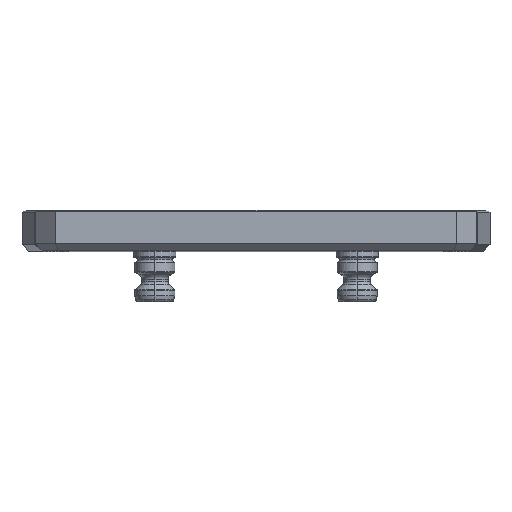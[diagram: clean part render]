
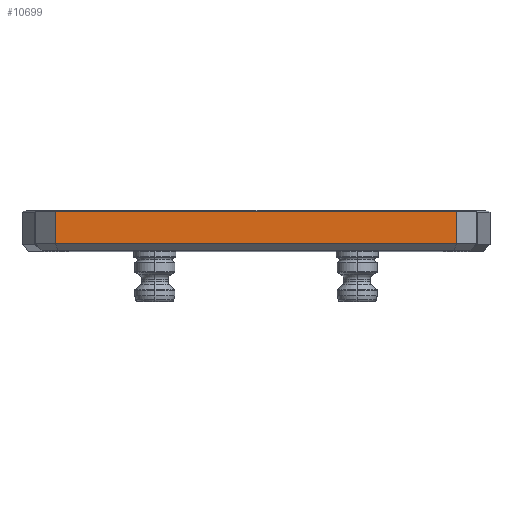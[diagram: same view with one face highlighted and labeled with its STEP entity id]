
A CAD part, top view. The second image highlights one B-rep face of the part: STEP entity #10699.
In plain terms, the highlighted planar face has unit normal (0, 0, 1).
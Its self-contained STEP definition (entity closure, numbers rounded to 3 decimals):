
#222 = ORIENTED_EDGE ( 'NONE', *, *, #4744, .T. ) ;
#234 = LINE ( 'NONE', #746, #2522 ) ;
#265 = PLANE ( 'NONE',  #9976 ) ;
#746 = CARTESIAN_POINT ( 'NONE',  ( -95.25, 18.542, 169. ) ) ;
#901 = LINE ( 'NONE', #5977, #3186 ) ;
#1336 = ORIENTED_EDGE ( 'NONE', *, *, #3201, .T. ) ;
#1771 = LINE ( 'NONE', #7569, #8369 ) ;
#1966 = DIRECTION ( 'NONE',  ( -1., 0., 0. ) ) ;
#2064 = EDGE_LOOP ( 'NONE', ( #222, #1336, #3951, #2580 ) ) ;
#2398 = DIRECTION ( 'NONE',  ( -1., 0., 0. ) ) ;
#2522 = VECTOR ( 'NONE', #2398, 1000. ) ;
#2580 = ORIENTED_EDGE ( 'NONE', *, *, #7151, .T. ) ;
#2949 = DIRECTION ( 'NONE',  ( 0., 1., 0. ) ) ;
#3075 = VERTEX_POINT ( 'NONE', #7978 ) ;
#3186 = VECTOR ( 'NONE', #11153, 1000. ) ;
#3201 = EDGE_CURVE ( 'NONE', #10597, #7466, #234, .T. ) ;
#3521 = LINE ( 'NONE', #5547, #10662 ) ;
#3538 = EDGE_CURVE ( 'NONE', #7466, #8417, #1771, .T. ) ;
#3951 = ORIENTED_EDGE ( 'NONE', *, *, #3538, .T. ) ;
#4044 = DIRECTION ( 'NONE',  ( 0., -1., 0. ) ) ;
#4348 = CARTESIAN_POINT ( 'NONE',  ( 95.25, 18.542, 169. ) ) ;
#4627 = FACE_OUTER_BOUND ( 'NONE', #2064, .T. ) ;
#4744 = EDGE_CURVE ( 'NONE', #3075, #10597, #3521, .T. ) ;
#5547 = CARTESIAN_POINT ( 'NONE',  ( 95.25, 19.05, 169. ) ) ;
#5977 = CARTESIAN_POINT ( 'NONE',  ( -111.125, 3.175, 169. ) ) ;
#6286 = CARTESIAN_POINT ( 'NONE',  ( -111.125, 19.05, 169. ) ) ;
#7151 = EDGE_CURVE ( 'NONE', #8417, #3075, #901, .T. ) ;
#7157 = DIRECTION ( 'NONE',  ( 0., 0., -1. ) ) ;
#7466 = VERTEX_POINT ( 'NONE', #8997 ) ;
#7569 = CARTESIAN_POINT ( 'NONE',  ( -95.25, 19.05, 169. ) ) ;
#7978 = CARTESIAN_POINT ( 'NONE',  ( 95.25, 3.175, 169. ) ) ;
#8369 = VECTOR ( 'NONE', #4044, 1000. ) ;
#8417 = VERTEX_POINT ( 'NONE', #10138 ) ;
#8997 = CARTESIAN_POINT ( 'NONE',  ( -95.25, 18.542, 169. ) ) ;
#9976 = AXIS2_PLACEMENT_3D ( 'NONE', #6286, #7157, #1966 ) ;
#10138 = CARTESIAN_POINT ( 'NONE',  ( -95.25, 3.175, 169. ) ) ;
#10597 = VERTEX_POINT ( 'NONE', #4348 ) ;
#10662 = VECTOR ( 'NONE', #2949, 1000. ) ;
#10699 = ADVANCED_FACE ( 'NONE', ( #4627 ), #265, .F. ) ;
#11153 = DIRECTION ( 'NONE',  ( 1., 0., 0. ) ) ;
